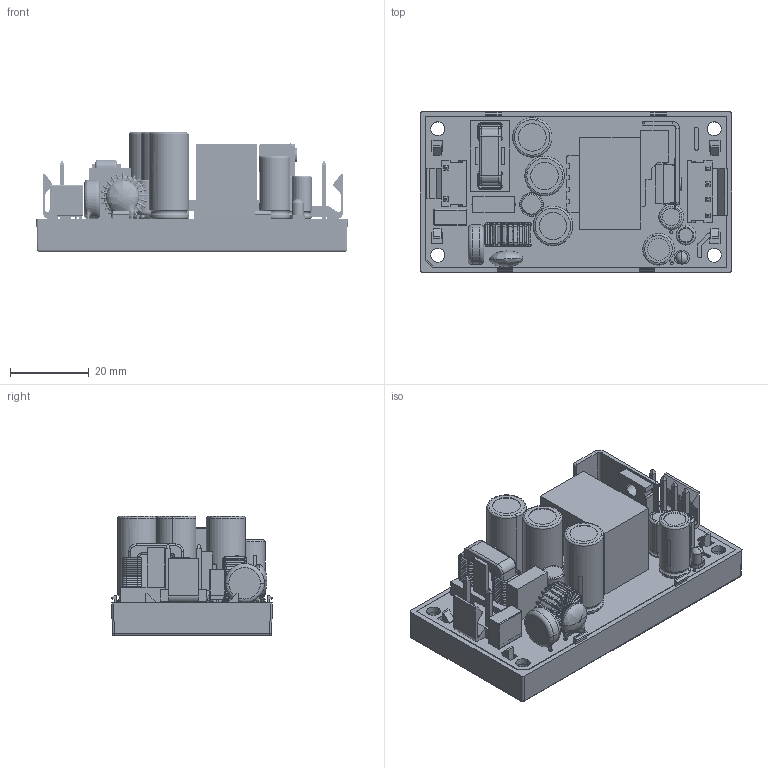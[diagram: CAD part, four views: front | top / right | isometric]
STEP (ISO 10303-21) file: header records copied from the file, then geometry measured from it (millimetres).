
FILE_DESCRIPTION (( 'STEP AP214' ), '1' );
FILE_NAME ('RACM65S-K_277_OIB.STEP', '2024-11-01T07:12:30', ( '' ), ( '' ), 'SwSTEP 2.0', 'SolidWorks 2024', '' );
FILE_SCHEMA (( 'AUTOMOTIVE_DESIGN' ));
Length unit declared in the file: millimetre
Products named in the file (1): RACM65S-K_277_OIB
Bounding box: 79.02 x 40.76 x 30.3 mm (x, y, z)
Volume: 32623.2 mm3; surface area: 35271.8 mm2
Topology: 217 solids, 217 shells, 3847 faces, 8913 edges, 5454 vertices
Faces by surface type: plane 1826, cylinder 908, bspline 605, torus 456, sphere 50, cone 2
Entity records: 178263 total; most frequent: CARTESIAN_POINT 49648, ORIENTED_EDGE 17612, DIRECTION 16532, EDGE_CURVE 8806, AXIS2_PLACEMENT_3D 5695, VERTEX_POINT 5425, VECTOR 5142, LINE 5142
